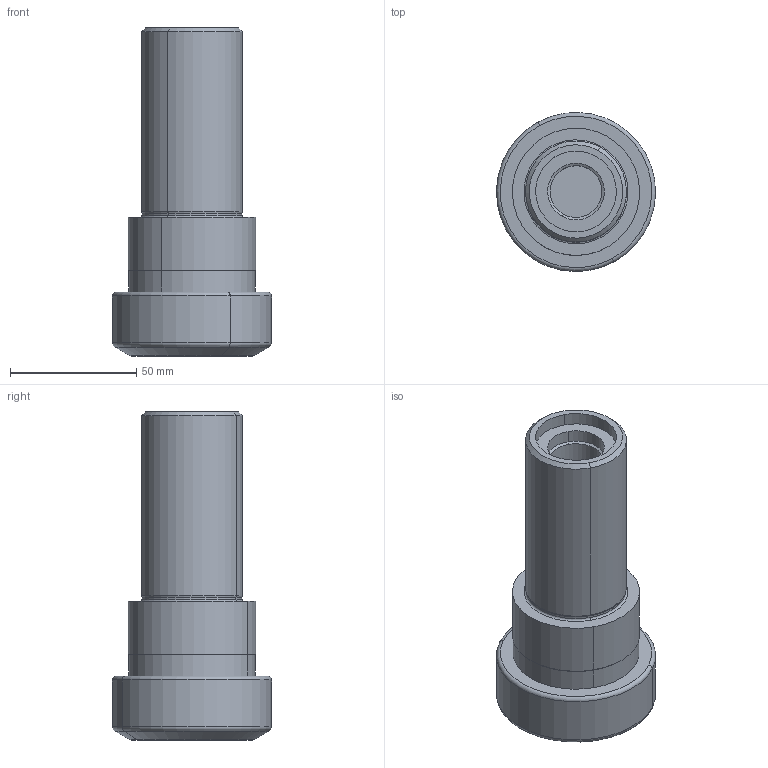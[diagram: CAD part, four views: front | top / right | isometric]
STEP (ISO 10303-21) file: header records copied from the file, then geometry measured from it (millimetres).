
FILE_DESCRIPTION(('CATIA V5 STEP','CAx-IF Rec.Pracs.--- Model Styling and Organization---1.2---2011-12-15'),'2;1');
FILE_NAME('\\nas01\drv1\utils\eitdev\rte\eit\transmagicconvert\db\out\635965699163097984\4508009 LM.stp','2016-04-18T06:52:08+00:00',('none'),('none'),'CATIA Version 5 Release 21 SP 5 (IN-10)','CATIA V5 STEP AP214','none');
FILE_SCHEMA(('AUTOMOTIVE_DESIGN { 1 0 10303 214 1 1 1 1 }'));
Length unit declared in the file: millimetre
Products named in the file (1): ST 40X 75 ER40 F
Bounding box: 62.98 x 62.98 x 130.03 mm (x, y, z)
Volume: 165598.5 mm3; surface area: 32224.3 mm2
Topology: 1 solids, 1 shells, 55 faces, 112 edges, 66 vertices
Faces by surface type: cylinder 22, cone 12, torus 10, plane 9, extrusion 2
Entity records: 1440 total; most frequent: CARTESIAN_POINT 359, ORIENTED_EDGE 224, DIRECTION 178, EDGE_CURVE 112, AXIS2_PLACEMENT_3D 107, CIRCLE 72, VERTEX_POINT 66, EDGE_LOOP 62
